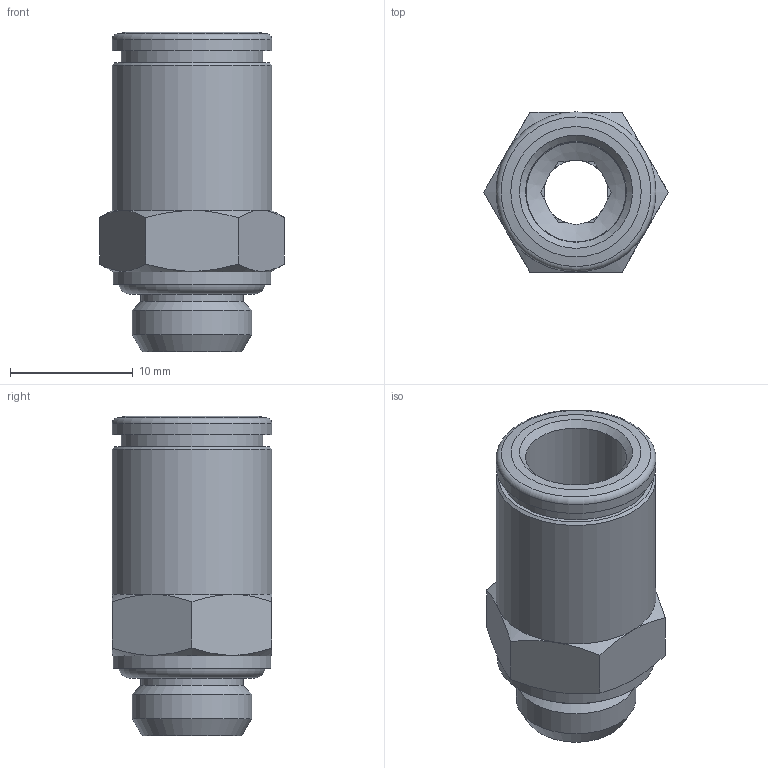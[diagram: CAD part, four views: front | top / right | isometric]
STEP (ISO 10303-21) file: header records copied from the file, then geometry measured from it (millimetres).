
FILE_DESCRIPTION(/* description */ (''),/* implementation_level */ '2;1');
FILE_NAME(/* name */ '200109-ES_STX01_8_G18_28.04.16',/* time_stamp */ '2016-04-28T11:26:38+02:00',/* author */ (''),/* organization */ (''),/* preprocessor_version */ 'ST-DEVELOPER v14',/* originating_system */ 'HiCAD 2013 1802.4 Build 509',/* authorisation */ '');
FILE_SCHEMA (('AUTOMOTIVE_DESIGN { 1 0 10303 214 1 1 1 1 }'));
Length unit declared in the file: millimetre
Products named in the file (4): Root; OR 7.2X1.9; R200109-ES-i1; DR8_NEU
Assembly tree (3 placements, depth 2):
  Root
    OR 7.2X1.9
    R200109-ES-i1
    DR8_NEU
Bounding box: 15.01 x 13 x 26 mm (x, y, z)
Volume: 1758.6 mm3; surface area: 2678.8 mm2
Topology: 3 solids, 3 shells, 67 faces, 155 edges, 96 vertices
Faces by surface type: plane 32, cone 19, cylinder 12, torus 4
Full cylindrical faces by diameter (mm): 5.2 x1, 8.1 x1, 8.2 x1, 8.3 x1, 9.728 x1, 10.1 x1, 11 x1, 11.5 x1, 11.6 x1, 12.8 x1, 13 x2
Entity records: 3026 total; most frequent: DIRECTION 346, CARTESIAN_POINT 279, PRESENTATION_STYLE_ASSIGNMENT 247, OVER_RIDING_STYLED_ITEM 244, COLOUR_RGB 239, DRAUGHTING_PRE_DEFINED_CURVE_FONT 236, CURVE_STYLE 236, ORIENTED_EDGE 236
